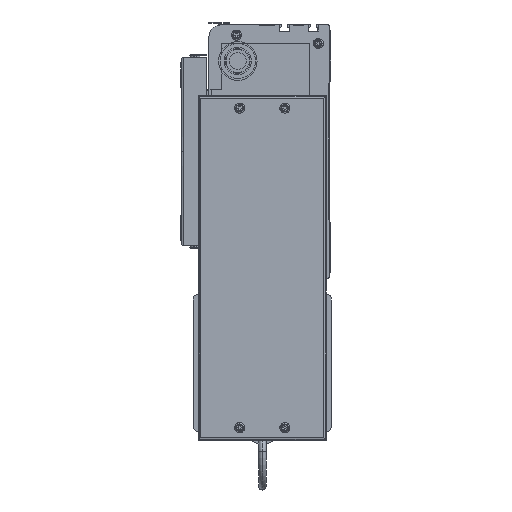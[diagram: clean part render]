
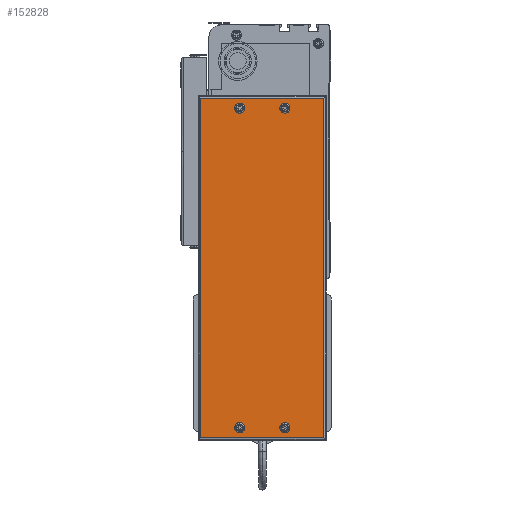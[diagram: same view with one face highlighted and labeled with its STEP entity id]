
A CAD part, left-side view. The second image highlights one B-rep face of the part: STEP entity #152828.
In plain terms, the highlighted planar face has unit normal (-1, 0, 0) as drawn and (1, 0, 0) by its records, which use the part's own axes.
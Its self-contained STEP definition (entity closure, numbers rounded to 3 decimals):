
#12391 = CARTESIAN_POINT ( 'NONE',  ( 50., 10., -69. ) ) ;
#12396 = CIRCLE ( 'NONE', #12417, 2.5 ) ;
#12417 = AXIS2_PLACEMENT_3D ( 'NONE', #12391, #12526, #12524 ) ;
#12467 = DIRECTION ( 'NONE',  ( 0., 0., 1. ) ) ;
#12469 = VECTOR ( 'NONE', #12467, 1000. ) ;
#12498 = CARTESIAN_POINT ( 'NONE',  ( 50., 272., 0. ) ) ;
#12524 = DIRECTION ( 'NONE',  ( 0., 0., -1. ) ) ;
#12526 = DIRECTION ( 'NONE',  ( 1., 0., 0. ) ) ;
#12531 = LINE ( 'NONE', #12498, #12469 ) ;
#12572 = DIRECTION ( 'NONE',  ( 0., 1., 0. ) ) ;
#12573 = VECTOR ( 'NONE', #12572, 1000. ) ;
#12574 = CARTESIAN_POINT ( 'NONE',  ( 50., 274., -100. ) ) ;
#12578 = DIRECTION ( 'NONE',  ( 0., 0., -1. ) ) ;
#12579 = DIRECTION ( 'NONE',  ( 1., 0., 0. ) ) ;
#12580 = CARTESIAN_POINT ( 'NONE',  ( 50., 264., -69. ) ) ;
#12581 = AXIS2_PLACEMENT_3D ( 'NONE', #12580, #12579, #12578 ) ;
#12589 = LINE ( 'NONE', #12574, #12573 ) ;
#12592 = CIRCLE ( 'NONE', #12581, 2.5 ) ;
#12646 = CARTESIAN_POINT ( 'NONE',  ( 50., 274., -2. ) ) ;
#12647 = LINE ( 'NONE', #12646, #12697 ) ;
#12649 = CARTESIAN_POINT ( 'NONE',  ( 50., 272., -2. ) ) ;
#12660 = CARTESIAN_POINT ( 'NONE',  ( 50., 272., -100. ) ) ;
#12693 = CARTESIAN_POINT ( 'NONE',  ( 50., 2., -2. ) ) ;
#12696 = DIRECTION ( 'NONE',  ( 0., -1., 0. ) ) ;
#12697 = VECTOR ( 'NONE', #12696, 1000. ) ;
#12859 = FACE_OUTER_BOUND ( 'NONE', #152597, .T. ) ;
#12896 = DIRECTION ( 'NONE',  ( 0., 0., 1. ) ) ;
#12897 = DIRECTION ( 'NONE',  ( -1., 0., 0. ) ) ;
#12898 = CARTESIAN_POINT ( 'NONE',  ( 50., 274., 0. ) ) ;
#12899 = AXIS2_PLACEMENT_3D ( 'NONE', #12898, #12897, #12896 ) ;
#12900 = PLANE ( 'NONE',  #12899 ) ;
#12907 = FACE_BOUND ( 'NONE', #152503, .T. ) ;
#12908 = FACE_BOUND ( 'NONE', #152480, .T. ) ;
#12914 = FACE_BOUND ( 'NONE', #152459, .T. ) ;
#12915 = FACE_BOUND ( 'NONE', #152486, .T. ) ;
#12948 = AXIS2_PLACEMENT_3D ( 'NONE', #12995, #12994, #12993 ) ;
#12952 = DIRECTION ( 'NONE',  ( 0., 0., -1. ) ) ;
#12953 = DIRECTION ( 'NONE',  ( 1., 0., 0. ) ) ;
#12954 = CARTESIAN_POINT ( 'NONE',  ( 50., 264., -33. ) ) ;
#12955 = AXIS2_PLACEMENT_3D ( 'NONE', #12954, #12953, #12952 ) ;
#12956 = CIRCLE ( 'NONE', #12955, 2.5 ) ;
#12989 = DIRECTION ( 'NONE',  ( 0., 0., -1. ) ) ;
#12990 = VECTOR ( 'NONE', #12989, 1000. ) ;
#12991 = CARTESIAN_POINT ( 'NONE',  ( 50., 2., 0. ) ) ;
#12992 = LINE ( 'NONE', #12991, #12990 ) ;
#12993 = DIRECTION ( 'NONE',  ( 0., 0., -1. ) ) ;
#12994 = DIRECTION ( 'NONE',  ( 1., 0., 0. ) ) ;
#12995 = CARTESIAN_POINT ( 'NONE',  ( 50., 10., -33. ) ) ;
#13003 = CIRCLE ( 'NONE', #12948, 2.5 ) ;
#13008 = CARTESIAN_POINT ( 'NONE',  ( 50., 2., -100. ) ) ;
#13307 = CARTESIAN_POINT ( 'NONE',  ( 50., 10., -35.5 ) ) ;
#13314 = CIRCLE ( 'NONE', #13365, 2.5 ) ;
#13333 = CARTESIAN_POINT ( 'NONE',  ( 50., 264., -30.5 ) ) ;
#13362 = DIRECTION ( 'NONE',  ( 0., 0., -1. ) ) ;
#13363 = DIRECTION ( 'NONE',  ( 1., 0., 0. ) ) ;
#13364 = CARTESIAN_POINT ( 'NONE',  ( 50., 10., -33. ) ) ;
#13365 = AXIS2_PLACEMENT_3D ( 'NONE', #13364, #13363, #13362 ) ;
#13585 = CIRCLE ( 'NONE', #13648, 2.5 ) ;
#13627 = CARTESIAN_POINT ( 'NONE',  ( 50., 10., -66.5 ) ) ;
#13642 = CARTESIAN_POINT ( 'NONE',  ( 50., 264., -35.5 ) ) ;
#13645 = DIRECTION ( 'NONE',  ( 0., 0., -1. ) ) ;
#13646 = DIRECTION ( 'NONE',  ( 1., 0., 0. ) ) ;
#13647 = CARTESIAN_POINT ( 'NONE',  ( 50., 264., -33. ) ) ;
#13648 = AXIS2_PLACEMENT_3D ( 'NONE', #13647, #13646, #13645 ) ;
#13770 = CIRCLE ( 'NONE', #13824, 2.5 ) ;
#13805 = DIRECTION ( 'NONE',  ( 0., 0., -1. ) ) ;
#13806 = DIRECTION ( 'NONE',  ( 1., 0., 0. ) ) ;
#13816 = CARTESIAN_POINT ( 'NONE',  ( 50., 10., -69. ) ) ;
#13824 = AXIS2_PLACEMENT_3D ( 'NONE', #13816, #13806, #13805 ) ;
#13869 = CARTESIAN_POINT ( 'NONE',  ( 50., 10., -71.5 ) ) ;
#13879 = CARTESIAN_POINT ( 'NONE',  ( 50., 264., -66.5 ) ) ;
#13891 = CARTESIAN_POINT ( 'NONE',  ( 50., 10., -30.5 ) ) ;
#13919 = DIRECTION ( 'NONE',  ( 0., 0., -1. ) ) ;
#13920 = DIRECTION ( 'NONE',  ( 1., 0., 0. ) ) ;
#13921 = CARTESIAN_POINT ( 'NONE',  ( 50., 264., -69. ) ) ;
#13922 = CIRCLE ( 'NONE', #13926, 2.5 ) ;
#13926 = AXIS2_PLACEMENT_3D ( 'NONE', #13921, #13920, #13919 ) ;
#13928 = CARTESIAN_POINT ( 'NONE',  ( 50., 264., -71.5 ) ) ;
#152459 = EDGE_LOOP ( 'NONE', ( #152484, #152471 ) ) ;
#152467 = ORIENTED_EDGE ( 'NONE', *, *, #152553, .T. ) ;
#152469 = EDGE_CURVE ( 'NONE', #154068, #153782, #12396, .T. ) ;
#152471 = ORIENTED_EDGE ( 'NONE', *, *, #153766, .F. ) ;
#152477 = ORIENTED_EDGE ( 'NONE', *, *, #152499, .T. ) ;
#152480 = EDGE_LOOP ( 'NONE', ( #152761, #152501 ) ) ;
#152484 = ORIENTED_EDGE ( 'NONE', *, *, #152888, .F. ) ;
#152486 = EDGE_LOOP ( 'NONE', ( #152504, #152550 ) ) ;
#152499 = EDGE_CURVE ( 'NONE', #152620, #152631, #12531, .T. ) ;
#152501 = ORIENTED_EDGE ( 'NONE', *, *, #153981, .F. ) ;
#152503 = EDGE_LOOP ( 'NONE', ( #152756, #152514 ) ) ;
#152504 = ORIENTED_EDGE ( 'NONE', *, *, #152548, .F. ) ;
#152514 = ORIENTED_EDGE ( 'NONE', *, *, #153327, .F. ) ;
#152548 = EDGE_CURVE ( 'NONE', #154085, #154076, #12592, .T. ) ;
#152550 = ORIENTED_EDGE ( 'NONE', *, *, #154079, .F. ) ;
#152553 = EDGE_CURVE ( 'NONE', #152910, #152620, #12589, .T. ) ;
#152597 = EDGE_LOOP ( 'NONE', ( #152624, #152914, #152467, #152477 ) ) ;
#152620 = VERTEX_POINT ( 'NONE', #12660 ) ;
#152624 = ORIENTED_EDGE ( 'NONE', *, *, #152625, .T. ) ;
#152625 = EDGE_CURVE ( 'NONE', #152631, #152633, #12647, .T. ) ;
#152631 = VERTEX_POINT ( 'NONE', #12649 ) ;
#152633 = VERTEX_POINT ( 'NONE', #12693 ) ;
#152756 = ORIENTED_EDGE ( 'NONE', *, *, #152904, .F. ) ;
#152761 = ORIENTED_EDGE ( 'NONE', *, *, #152469, .F. ) ;
#152828 = ADVANCED_FACE ( 'NONE', ( #12859, #12908, #12907, #12915, #12914 ), #12900, .F. ) ;
#152888 = EDGE_CURVE ( 'NONE', #153768, #153310, #12956, .T. ) ;
#152904 = EDGE_CURVE ( 'NONE', #153325, #154035, #13003, .T. ) ;
#152907 = EDGE_CURVE ( 'NONE', #152633, #152910, #12992, .T. ) ;
#152910 = VERTEX_POINT ( 'NONE', #13008 ) ;
#152914 = ORIENTED_EDGE ( 'NONE', *, *, #152907, .T. ) ;
#153310 = VERTEX_POINT ( 'NONE', #13333 ) ;
#153325 = VERTEX_POINT ( 'NONE', #13307 ) ;
#153327 = EDGE_CURVE ( 'NONE', #154035, #153325, #13314, .T. ) ;
#153766 = EDGE_CURVE ( 'NONE', #153310, #153768, #13585, .T. ) ;
#153768 = VERTEX_POINT ( 'NONE', #13642 ) ;
#153782 = VERTEX_POINT ( 'NONE', #13627 ) ;
#153981 = EDGE_CURVE ( 'NONE', #153782, #154068, #13770, .T. ) ;
#154035 = VERTEX_POINT ( 'NONE', #13891 ) ;
#154068 = VERTEX_POINT ( 'NONE', #13869 ) ;
#154076 = VERTEX_POINT ( 'NONE', #13879 ) ;
#154079 = EDGE_CURVE ( 'NONE', #154076, #154085, #13922, .T. ) ;
#154085 = VERTEX_POINT ( 'NONE', #13928 ) ;
